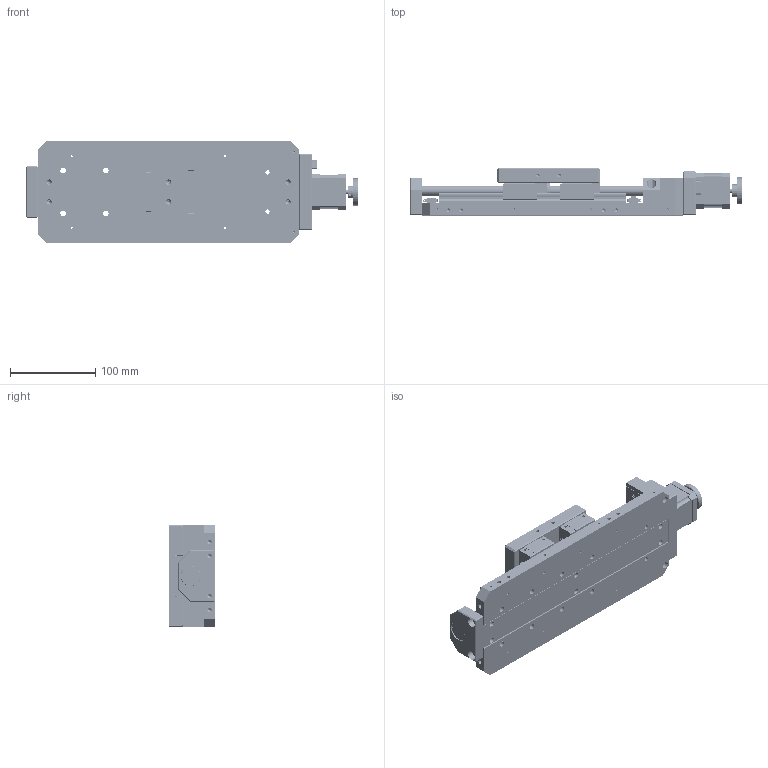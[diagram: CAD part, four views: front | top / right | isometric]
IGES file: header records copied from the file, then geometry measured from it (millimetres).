
Start section: SolidWorks IGES file using analytic representation for surfaces
Global section: file name: C:\Users\dubin\Desktop\9.18\PT-GD140G(100)\PT-GD140G(100).IGS; native system: SolidWorks 2017; preprocessor: SolidWorks 2017; author: PDV; date: 220918.104609; units: millimetre
Bounding box: 389 x 55 x 120 mm (x, y, z)
Surface area: 333075.5 mm2 (no closed solid volume)
Topology: 0 solids, 0 shells, 2663 faces, 36919 edges, 36648 vertices
Faces by surface type: bspline 1457, revolution 1206
